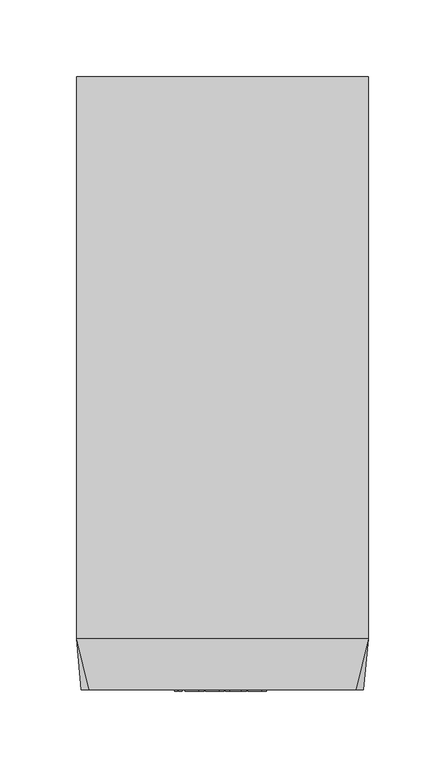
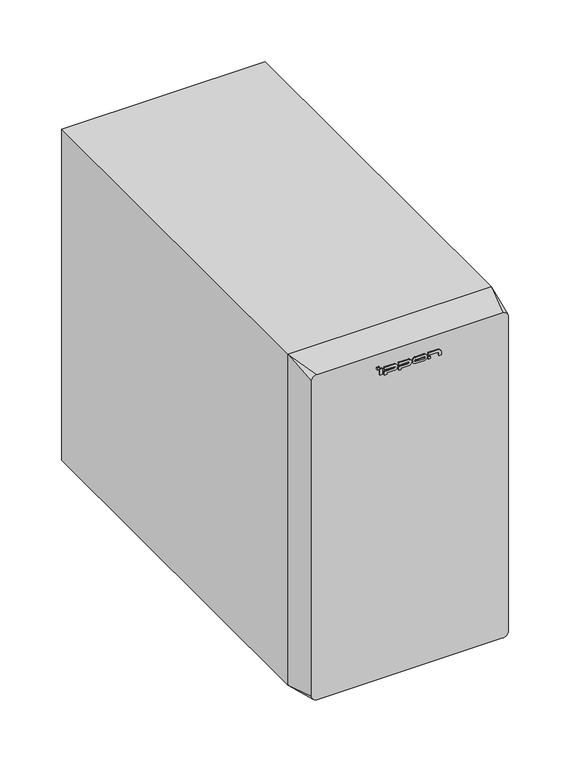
"""IFC4 building model written with IfcOpenShell, lengths in millimetres: proxy geometry, IPPON_ИБП_Innova G2 Euro_1000_2000_3000ВА : Innova G2 Euro 2000 ВА."""

from ifc_helpers import new_model, si_unit, point, frame, frame_2d, origin, place, context, project, spatial, polyline, circle_curve, trimmed, segment, composite_curve, outline, extrude, source, transform, mapped, element, save
from ifc_brep_helpers import plane_surface, spline_surface, advanced_brep


def electrical_equipment_5d2fe02d(model_context):
    return source(origin(), model_context, "Body", "SolidModel", [
        extrude(outline(polyline([(-29.1718133, -1.0), (-31.1718133, -1.0), (-31.1718133, 0.0), (-29.1718133, 0.0), (-29.1718133, -1.0)])), frame((0.0, 0.0, 309.4695835), z_axis=(0.0, 0.0, 1.0), x_axis=(1.0, 0.0, 0.0)), (0.0, 0.0, 1.0), 2.3),
        extrude(outline(polyline([(18.6035474, -1.0), (16.6035474, -1.0), (16.6035474, 0.0), (18.6035474, 0.0), (18.6035474, -1.0)])), frame((0.0, 0.0, 303.4695835), z_axis=(0.0, 0.0, 1.0), x_axis=(1.0, 0.0, 0.0)), (0.0, 0.0, 1.0), 2.2268231),
        extrude(outline(polyline([(-26.438565, -1.0), (-28.4833324, -1.0), (-28.4833324, 0.0), (-26.438565, 0.0), (-26.438565, -1.0)])), frame((0.0, 0.0, 303.4695835), z_axis=(0.0, 0.0, 1.0), x_axis=(1.0, 0.0, 0.0)), (0.0, 0.0, 1.0), 6.0),
        extrude(outline(composite_curve([segment(polyline([(307.2071435, -24.2241109), (307.2071435, -14.9923536)]), True, "CONTINUOUS"), segment(trimmed(circle_curve(frame_2d((306.3506642, -14.9923536)), 0.8564793), [point((307.2071435, -14.9923536))], [point((305.4941849, -14.9923536))], True, "CARTESIAN"), True, "CONTINUOUS"), segment(polyline([(305.4941849, -14.9923536), (305.4941849, -24.2241109), (302.0036803, -24.2241109), (302.0036803, -22.2241109), (303.4695835, -22.2241109), (303.4695835, -15.1486036)]), True, "CONTINUOUS"), segment(trimmed(circle_curve(frame_2d((306.4695835, -15.1486036)), 3.0), [point((303.4695835, -15.1486036))], [point((309.4695835, -15.1486036))], False, "CARTESIAN"), True, "CONTINUOUS"), segment(polyline([(309.4695835, -15.1486036), (309.4695835, -24.2241109), (307.2071435, -24.2241109)]), True, "CONTINUOUS")], self_intersect=False)), frame((0.0, -1.0, 0.0), z_axis=(0.0, 1.0, 0.0), x_axis=(0.0, 0.0, 1.0)), (0.0, 0.0, 1.0), 1.0),
        extrude(outline(composite_curve([segment(polyline([(307.2071435, -11.0171091), (307.2071435, -1.7853518)]), True, "CONTINUOUS"), segment(trimmed(circle_curve(frame_2d((306.3506642, -1.7853518)), 0.8564793), [point((307.2071435, -1.7853518))], [point((305.4941849, -1.7853518))], True, "CARTESIAN"), True, "CONTINUOUS"), segment(polyline([(305.4941849, -1.7853518), (305.4941849, -11.0171091), (302.0036803, -11.0171091), (302.0036803, -9.0171091), (303.4695835, -9.0171091), (303.4695835, -1.9416018)]), True, "CONTINUOUS"), segment(trimmed(circle_curve(frame_2d((306.4695835, -1.9416018)), 3.0), [point((303.4695835, -1.9416018))], [point((309.4695835, -1.9416018))], False, "CARTESIAN"), True, "CONTINUOUS"), segment(polyline([(309.4695835, -1.9416018), (309.4695835, -11.0171091), (307.2071435, -11.0171091)]), True, "CONTINUOUS")], self_intersect=False)), frame((0.0, -1.0, 0.0), z_axis=(0.0, 1.0, 0.0), x_axis=(0.0, 0.0, 1.0)), (0.0, 0.0, 1.0), 1.0),
        extrude(outline(composite_curve([segment(trimmed(circle_curve(frame_2d((306.4695835, 12.558657)), 3.0), [point((303.4695835, 12.558657))], [point((309.4695835, 12.558657))], False, "CARTESIAN"), True, "CONTINUOUS"), segment(polyline([(309.4695835, 12.558657), (309.4695835, 4.958657)]), True, "CONTINUOUS"), segment(trimmed(circle_curve(frame_2d((306.4695835, 4.958657)), 3.0), [point((309.4695835, 4.958657))], [point((303.4695835, 4.958657))], False, "CARTESIAN"), True, "CONTINUOUS"), segment(polyline([(303.4695835, 4.958657), (303.4695835, 12.558657)]), True, "CONTINUOUS")], self_intersect=False), holes=[composite_curve([segment(polyline([(305.4941849, 12.714907), (305.4941849, 4.802407)]), True, "CONTINUOUS"), segment(trimmed(circle_curve(frame_2d((306.3506642, 4.802407)), 0.8564793), [point((305.4941849, 4.802407))], [point((307.2071435, 4.802407))], True, "CARTESIAN"), True, "CONTINUOUS"), segment(polyline([(307.2071435, 4.802407), (307.2071435, 12.714907)]), True, "CONTINUOUS"), segment(trimmed(circle_curve(frame_2d((306.3506642, 12.714907)), 0.8564793), [point((307.2071435, 12.714907))], [point((305.4941849, 12.714907))], True, "CARTESIAN"), True, "CONTINUOUS")], self_intersect=False)]), frame((0.0, -1.0, 0.0), z_axis=(0.0, 1.0, 0.0), x_axis=(0.0, 0.0, 1.0)), (0.0, 0.0, 1.0), 1.0),
        extrude(outline(composite_curve([segment(polyline([(307.2071435, 16.6035474), (307.2071435, 25.8353046)]), True, "CONTINUOUS"), segment(trimmed(circle_curve(frame_2d((306.3506642, 25.8353046)), 0.8564793), [point((307.2071435, 25.8353046))], [point((306.3506642, 26.6917839))], True, "CARTESIAN"), True, "CONTINUOUS"), segment(polyline([(306.3506642, 26.6917839), (303.4695835, 26.6917839), (303.4695835, 28.6317921), (307.0, 28.6317921)]), True, "CONTINUOUS"), segment(trimmed(circle_curve(frame_2d((306.4695835, 25.6790546)), 3.0), [point((307.0, 28.6317921))], [point((309.4695835, 25.6790546))], False, "CARTESIAN"), True, "CONTINUOUS"), segment(polyline([(309.4695835, 25.6790546), (309.4695835, 16.6035474), (307.2071435, 16.6035474)]), True, "CONTINUOUS")], self_intersect=False)), frame((0.0, -1.0, 0.0), z_axis=(0.0, 1.0, 0.0), x_axis=(0.0, 0.0, 1.0)), (0.0, 0.0, 1.0), 1.0),
        advanced_brep(
        [(87.0, 0.0, 3.0), (92.0, 0.0, 8.0), (92.0, 0.0, 319.0), (87.0, 0.0, 324.0), (-87.0, 0.0, 324.0), (-92.0, 0.0, 319.0), (-92.0, 0.0, 8.0), (-87.0, 0.0, 3.0), (95.0, 33.0, 0.0), (95.0, 33.0, 327.0), (-95.0, 33.0, 327.0), (-95.0, 33.0, 0.0), (95.0, 399.0, 327.0), (95.0, 399.0, 0.0), (-95.0, 399.0, 0.0), (-95.0, 399.0, 327.0)],
        [
            (0, 1, circle_curve(frame((87.0, 0.0, 8.0), z_axis=(0.0, -1.0, 0.0), x_axis=(-1.0, 0.0, 0.0)), 5.0)),
            (1, 2),
            (2, 3, circle_curve(frame((87.0, 0.0, 319.0), z_axis=(0.0, -1.0, 0.0), x_axis=(-1.0, 0.0, 0.0)), 5.0)),
            (3, 4),
            (4, 5, circle_curve(frame((-87.0, 0.0, 319.0), z_axis=(0.0, -1.0, 0.0), x_axis=(-1.0, 0.0, 0.0)), 5.0)),
            (5, 6),
            (6, 7, circle_curve(frame((-87.0, 0.0, 8.0), z_axis=(0.0, -1.0, 0.0), x_axis=(-1.0, 0.0, 0.0)), 5.0)),
            (7, 0),
            (1, 8),
            (8, 9),
            (9, 2),
            (3, 9),
            (9, 10),
            (10, 4),
            (5, 10),
            (10, 11),
            (11, 6),
            (7, 11),
            (11, 8),
            (8, 0),
            (12, 13),
            (13, 14),
            (14, 15),
            (15, 12),
            (15, 10),
            (9, 12),
            (14, 11),
            (13, 8),
        ],
        [
            plane_surface(frame((0.0, 0.0, 163.5), z_axis=(0.0, -1.0, 0.0), x_axis=(1.0, 0.0, 0.0))),
            plane_surface(frame((95.0, 33.0, 163.5), z_axis=(0.9958932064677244, -0.09053574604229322, 0.0), x_axis=(0.0, 0.0, 1.0))),
            plane_surface(frame((0.0, 33.0, 327.0), z_axis=(0.0, -0.09053574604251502, 0.9958932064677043), x_axis=(-1.0, 0.0, 0.0))),
            plane_surface(frame((-95.0, 33.0, 163.5), z_axis=(-0.9958932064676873, -0.09053574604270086, 0.0), x_axis=(0.0, 0.0, -1.0))),
            plane_surface(frame((0.0, 33.0, 0.0), z_axis=(0.0, -0.09053574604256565, -0.9958932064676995), x_axis=(1.0, 0.0, 0.0))),
            plane_surface(frame((-95.0, 399.0, 327.0), z_axis=(0.0, 1.0, 0.0), x_axis=(1.0, 0.0, 0.0))),
            plane_surface(frame((95.0, 33.0, 327.0), z_axis=(0.0, 0.0, 1.0), x_axis=(0.0, 1.0, 0.0))),
            plane_surface(frame((-95.0, 33.0, 327.0), z_axis=(-1.0, 0.0, 0.0), x_axis=(0.0, 1.0, 0.0))),
            plane_surface(frame((-95.0, 33.0, 0.0), z_axis=(0.0, 0.0, -1.0), x_axis=(0.0, 1.0, 0.0))),
            plane_surface(frame((95.0, 33.0, 0.0), z_axis=(1.0, 0.0, 0.0), x_axis=(0.0, 1.0, 0.0))),
            spline_surface(2, 1, [[(95.0, 33.0, 0.0), (87.0, 0.0, 3.0)], [(95.0, 33.0, 0.0), (92.0, 0.0, 3.0)], [(95.0, 33.0, 0.0), (92.0, 0.0, 8.0)]], [3, 3], [2, 2], [0.0, 1.0], [0.0, 1.0], weights=[[1.0, 1.0], [0.7071067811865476, 0.7071067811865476], [1.0, 1.0]]),
            spline_surface(2, 1, [[(95.0, 33.0, 327.0), (92.0, 0.0, 319.0)], [(95.0, 33.0, 327.0), (92.0, 0.0, 324.0)], [(95.0, 33.0, 327.0), (87.0, 0.0, 324.0)]], [3, 3], [2, 2], [0.0, 1.0], [0.0, 1.0], weights=[[1.0, 1.0], [0.7071067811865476, 0.7071067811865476], [1.0, 1.0]]),
            spline_surface(2, 1, [[(-95.0, 33.0, 327.0), (-87.0, 0.0, 324.0)], [(-95.0, 33.0, 327.0), (-92.0, 0.0, 324.0)], [(-95.0, 33.0, 327.0), (-92.0, 0.0, 319.0)]], [3, 3], [2, 2], [0.0, 1.0], [0.0, 1.0], weights=[[1.0, 1.0], [0.7071067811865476, 0.7071067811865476], [1.0, 1.0]]),
            spline_surface(2, 1, [[(-95.0, 33.0, 0.0), (-92.0, 0.0, 8.0)], [(-95.0, 33.0, 0.0), (-92.0, 0.0, 3.0)], [(-95.0, 33.0, 0.0), (-87.0, 0.0, 3.0)]], [3, 3], [2, 2], [0.0, 1.0], [0.0, 1.0], weights=[[1.0, 1.0], [0.7071067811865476, 0.7071067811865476], [1.0, 1.0]]),
        ],
        [
            (0, [[1, 2, 3, 4, 5, 6, 7, 8]]),
            (1, [[-2, 9, 10, 11]]),
            (2, [[-4, 12, 13, 14]]),
            (3, [[-6, 15, 16, 17]]),
            (4, [[-8, 18, 19, 20]]),
            (5, [[21, 22, 23, 24]]),
            (6, [[-24, 25, -13, 26]]),
            (7, [[-23, 27, -16, -25]]),
            (8, [[-22, 28, -19, -27]]),
            (9, [[-21, -26, -10, -28]]),
            (10, [[-1, -20, -9]]),
            (11, [[-3, -11, -12]]),
            (12, [[-5, -14, -15]]),
            (13, [[-7, -17, -18]]),
        ],
    ),
    ])


if __name__ == "__main__":
    model = new_model("IFC4")
    model_context = context("Model", 3, world=origin())
    ifc_project = project(units=[si_unit("LENGTHUNIT", "METRE", prefix="MILLI")], contexts=[model_context])
    site = spatial("IfcSite", under=ifc_project)
    building = spatial("IfcBuilding", under=site)
    placement = place(None, origin())
    electrical_equipment_shape = electrical_equipment_5d2fe02d(model_context)
    element("IfcBuildingElementProxy", 1, Name="IPPON_ИБП_Innova G2 Euro_1000_2000_3000ВА : Innova G2 Euro 2000 ВА", ObjectType="IPPON_ИБП_Innova G2 Euro_1000_2000_3000ВА : Innova G2 Euro 2000 ВА", at=placement, inside=building, context=model_context, shape_type="MappedRepresentation", body=[
        mapped(electrical_equipment_shape, transform((0.0, 0.0, 0.0), x_axis=(1.0, 0.0, 0.0), y_axis=(0.0, 1.0, 0.0), z_axis=(0.0, 0.0, 1.0))),
    ])
    save(model, "model.ifc")
